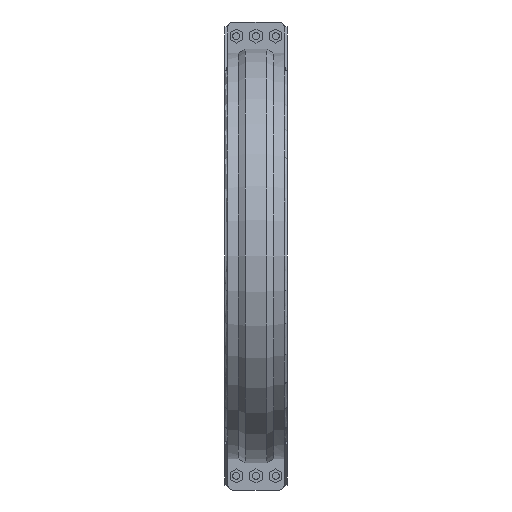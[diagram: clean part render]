
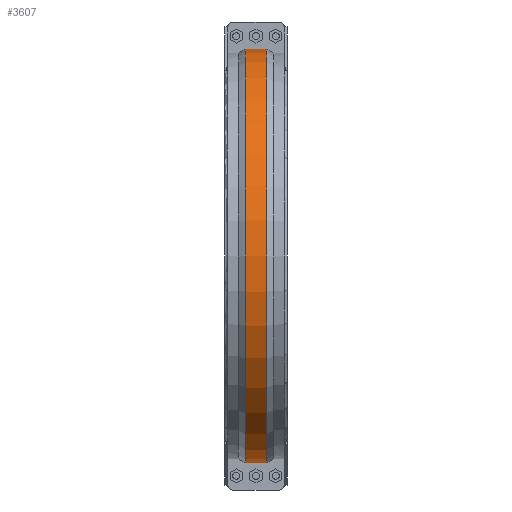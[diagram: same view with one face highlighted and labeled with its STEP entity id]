
A CAD part, front view. The second image highlights one B-rep face of the part: STEP entity #3607.
In plain terms, the highlighted cylindrical face has radius 561.543 mm (diameter 1123.09 mm), a partial arc.
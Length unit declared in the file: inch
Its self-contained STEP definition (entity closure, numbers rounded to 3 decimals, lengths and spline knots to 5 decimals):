
#432=FACE_OUTER_BOUND('',#650,.T.);
#650=EDGE_LOOP('',(#3080,#3081,#3082,#3083));
#804=LINE('',#5405,#1139);
#995=LINE('',#6044,#1330);
#1139=VECTOR('',#4302,0.3937);
#1330=VECTOR('',#4795,0.3937);
#1426=CIRCLE('',#3907,22.10801);
#1427=CIRCLE('',#3909,22.10801);
#1573=VERTEX_POINT('',#5400);
#1574=VERTEX_POINT('',#5404);
#1740=VERTEX_POINT('',#6039);
#1741=VERTEX_POINT('',#6043);
#1945=EDGE_CURVE('',#1574,#1573,#804,.T.);
#2204=EDGE_CURVE('',#1741,#1740,#995,.T.);
#2214=EDGE_CURVE('',#1741,#1573,#1426,.T.);
#2215=EDGE_CURVE('',#1740,#1574,#1427,.T.);
#3080=ORIENTED_EDGE('',*,*,#1945,.T.);
#3081=ORIENTED_EDGE('',*,*,#2214,.F.);
#3082=ORIENTED_EDGE('',*,*,#2204,.T.);
#3083=ORIENTED_EDGE('',*,*,#2215,.T.);
#3231=CYLINDRICAL_SURFACE('',#3908,22.10801);
#3607=ADVANCED_FACE('',(#432),#3231,.T.);
#3907=AXIS2_PLACEMENT_3D('',#6065,#4819,#4820);
#3908=AXIS2_PLACEMENT_3D('',#6066,#4821,#4822);
#3909=AXIS2_PLACEMENT_3D('',#6067,#4823,#4824);
#4302=DIRECTION('',(1.,0.,0.));
#4795=DIRECTION('',(-1.,0.,0.));
#4819=DIRECTION('center_axis',(1.,0.,0.));
#4820=DIRECTION('ref_axis',(0.,0.,-1.));
#4821=DIRECTION('center_axis',(1.,0.,0.));
#4822=DIRECTION('ref_axis',(0.,-1.,0.));
#4823=DIRECTION('center_axis',(1.,0.,0.));
#4824=DIRECTION('ref_axis',(0.,0.,-1.));
#5400=CARTESIAN_POINT('',(1.125,-0.375,-22.10483));
#5404=CARTESIAN_POINT('',(-1.125,-0.375,-22.10483));
#5405=CARTESIAN_POINT('',(0.5625,-0.375,-22.10483));
#6039=CARTESIAN_POINT('',(-1.125,-0.375,22.10483));
#6043=CARTESIAN_POINT('',(1.125,-0.375,22.10483));
#6044=CARTESIAN_POINT('',(0.5625,-0.375,22.10483));
#6065=CARTESIAN_POINT('Origin',(1.125,0.,0.));
#6066=CARTESIAN_POINT('Origin',(0.5625,0.,0.));
#6067=CARTESIAN_POINT('Origin',(-1.125,0.,0.));
